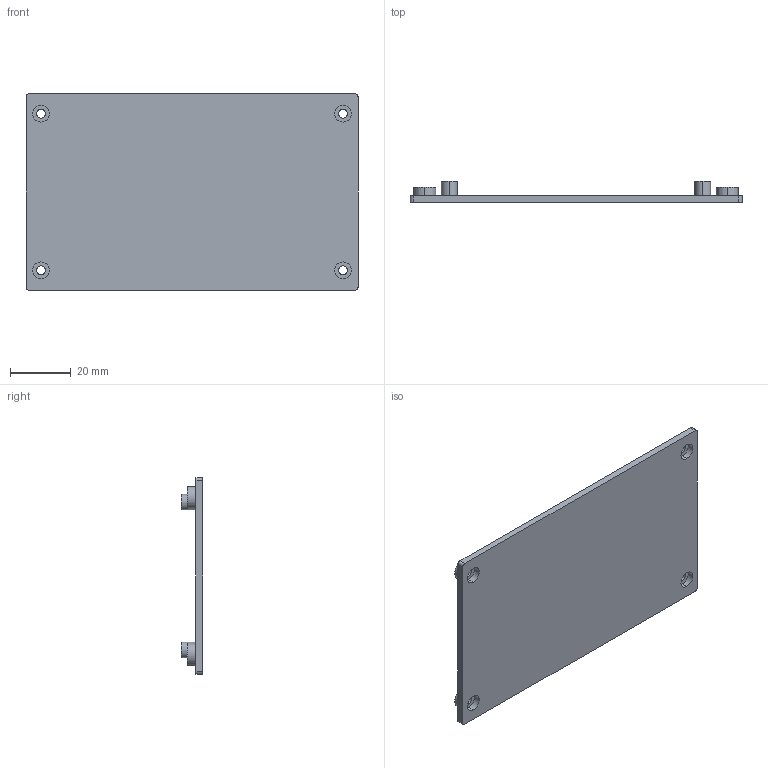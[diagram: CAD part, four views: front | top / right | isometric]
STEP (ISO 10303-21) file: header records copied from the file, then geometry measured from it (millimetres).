
FILE_DESCRIPTION (( 'STEP AP214' ), '1' );
FILE_NAME ('Cos PP45.STEP', '2017-08-22T07:11:50', ( 'aaa' ), ( '' ), 'SwSTEP 2.0', 'SolidWorks 2013', '' );
FILE_SCHEMA (( 'AUTOMOTIVE_DESIGN' ));
Length unit declared in the file: millimetre
Products named in the file (1): Cos PP45
Bounding box: 109.15 x 7.05 x 64.7 mm (x, y, z)
Volume: 16420.1 mm3; surface area: 15776.5 mm2
Topology: 1 solids, 1 shells, 66 faces, 144 edges, 96 vertices
Faces by surface type: cylinder 44, plane 22
Entity records: 1906 total; most frequent: DIRECTION 366, CARTESIAN_POINT 307, ORIENTED_EDGE 288, AXIS2_PLACEMENT_3D 155, EDGE_CURVE 144, VERTEX_POINT 96, EDGE_LOOP 90, CIRCLE 88
